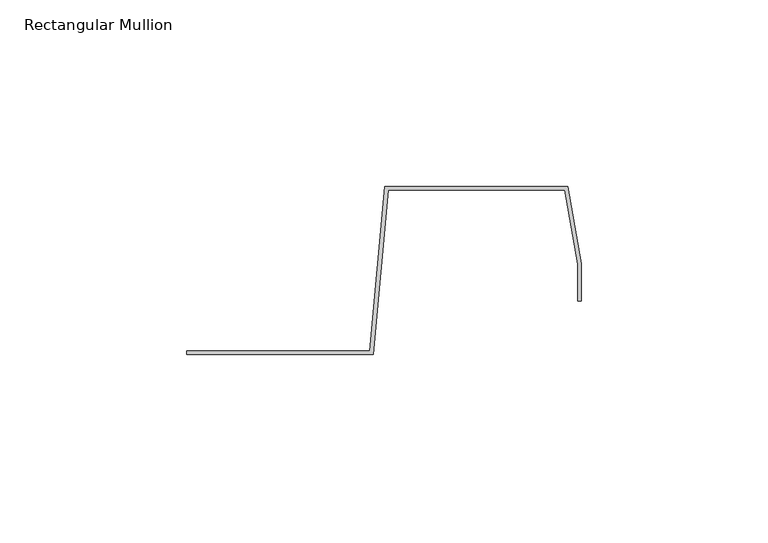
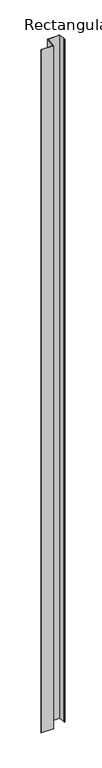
"""IFC4 building model written with IfcOpenShell, lengths in millimetres: member geometry, Rectangular Mullion : CD_NINELINE_Batten End w Pan."""

import ifcopenshell
import ifcopenshell.guid

model = None  # the IFC model being written
_history = None  # IfcOwnerHistory: only IFC2X3 demands one
_inside = {}  # id of a spatial element -> (the spatial element, [elements in it])
_under = {}  # id of a project, library or spatial element -> (it, [spatial elements below it])
_declared = {}  # id of a project -> (the project, [libraries it declares])
_typed = {}  # id of a type object -> (the type object, [elements of that type])
_made_of = {}  # id of a material, layer set ... -> (it, [elements and type objects made of it])


def new_model(schema):
    """Start an empty IFC model of exactly this schema.

    Asked for "IFC4X3", IfcOpenShell would pick the latest addendum, in which some entities
    have other attributes; the version numbers below select the first issue.
    IFC2X3 requires an IfcOwnerHistory on every rooted entity: one is made here for all.
    """
    global model, _history
    if schema == "IFC4X3":
        model = ifcopenshell.file(schema_version=(4, 3, 0, 0))
    else:
        model = ifcopenshell.file(schema=schema)
    _inside.clear()
    _under.clear()
    _declared.clear()
    _typed.clear()
    _made_of.clear()
    _history = None
    if model.schema == "IFC2X3":
        org = make("IfcOrganization", Name="unknown")
        user = make(
            "IfcPersonAndOrganization",
            ThePerson=make("IfcPerson", FamilyName="unknown"),
            TheOrganization=org,
        )
        app = make(
            "IfcApplication",
            ApplicationDeveloper=org,
            Version="unknown",
            ApplicationFullName="unknown",
            ApplicationIdentifier="unknown",
        )
        _history = make(
            "IfcOwnerHistory",
            OwningUser=user,
            OwningApplication=app,
            ChangeAction="ADDED",
            CreationDate=0,
        )
    return model


def make(cls, **values):
    """One entity of the class cls with the attributes given. An attribute that is None is left unset."""
    return model.create_entity(
        cls, **{name: value for name, value in values.items() if value is not None}
    )


def rooted(cls, **values):
    """An entity with a GlobalId (a new one), such as an element, a storey or a relation."""
    return make(cls, GlobalId=ifcopenshell.guid.new(), OwnerHistory=_history, **values)


def si_unit(unit_type, name, prefix=None):
    """IfcSIUnit, for example si_unit("LENGTHUNIT", "METRE", prefix="MILLI")."""
    return make("IfcSIUnit", UnitType=unit_type, Prefix=prefix, Name=name)


def assignment(units):
    """IfcUnitAssignment: the units of a project."""
    return None if units is None else make("IfcUnitAssignment", Units=units)


def point(xyz):
    """IfcCartesianPoint."""
    return None if xyz is None else make("IfcCartesianPoint", Coordinates=xyz)


def direction(xyz):
    """IfcDirection."""
    return None if xyz is None else make("IfcDirection", DirectionRatios=xyz)


def frame(location, z_axis=None, x_axis=None):
    """IfcAxis2Placement3D, a coordinate frame: its origin and axes. An axis left out is left unset."""
    return make(
        "IfcAxis2Placement3D",
        Location=point(location),
        Axis=direction(z_axis),
        RefDirection=direction(x_axis),
    )


def origin():
    """The frame at (0, 0, 0) with its axes left unset."""
    return frame((0.0, 0.0, 0.0))


def place(relative_to, where):
    """IfcLocalPlacement: puts the frame where relative to a parent placement (None: the world)."""
    return make(
        "IfcLocalPlacement", PlacementRelTo=relative_to, RelativePlacement=where
    )


def context(
    kind, dimensions, precision=None, world=None, true_north=None, identifier=None
):
    """IfcGeometricRepresentationContext, for example the 3D "Model" context."""
    return make(
        "IfcGeometricRepresentationContext",
        ContextIdentifier=identifier,
        ContextType=kind,
        CoordinateSpaceDimension=dimensions,
        Precision=precision,
        WorldCoordinateSystem=world,
        TrueNorth=true_north,
    )


def project(units=None, contexts=None):
    """IfcProject with its units and contexts."""
    return rooted(
        "IfcProject",
        Name="project",
        RepresentationContexts=contexts,
        UnitsInContext=assignment(units),
    )


def spatial(cls, under=None, at=None, **own):
    """A site, building, storey or space (cls), placed at a placement, below another one or the project."""
    s = rooted(cls, ObjectPlacement=at, **own)
    if under is not None:
        _under.setdefault(under.id(), (under, []))[1].append(s)
    return s


def polyline(points):
    """IfcPolyline through the points."""
    return make("IfcPolyline", Points=[point(p) for p in points])


def outline(outer, holes=None, kind="AREA"):
    """IfcArbitraryClosedProfileDef: a profile drawn as a closed curve; with holes, ...WithVoids."""
    if holes is None:
        return make("IfcArbitraryClosedProfileDef", ProfileType=kind, OuterCurve=outer)
    return make(
        "IfcArbitraryProfileDefWithVoids",
        ProfileType=kind,
        OuterCurve=outer,
        InnerCurves=holes,
    )


def extrude(swept, where, along, depth):
    """IfcExtrudedAreaSolid: the profile swept, set in the frame where, extruded along a direction by depth."""
    return make(
        "IfcExtrudedAreaSolid",
        SweptArea=swept,
        Position=where,
        ExtrudedDirection=direction(along),
        Depth=depth,
    )


def shape(context_of_items, identifier, shape_type, items):
    """IfcShapeRepresentation: the items that make up one representation, for example the "Body"."""
    return make(
        "IfcShapeRepresentation",
        ContextOfItems=context_of_items,
        RepresentationIdentifier=identifier,
        RepresentationType=shape_type,
        Items=items,
    )


def source(mapping_origin, context_of_items, identifier, shape_type, items):
    """IfcRepresentationMap: a shape defined once, which mapped items show again and again."""
    return make(
        "IfcRepresentationMap",
        MappingOrigin=mapping_origin,
        MappedRepresentation=shape(context_of_items, identifier, shape_type, items),
    )


def transform(
    local_origin,
    x_axis=None,
    y_axis=None,
    z_axis=None,
    scale=None,
    scale2=None,
    scale3=None,
    uniform=True,
):
    """IfcCartesianTransformationOperator3D, or its non-uniform kind. x_axis, y_axis, z_axis: its Axis1, 2, 3."""
    if uniform:
        return make(
            "IfcCartesianTransformationOperator3D",
            Axis1=direction(x_axis),
            Axis2=direction(y_axis),
            LocalOrigin=point(local_origin),
            Scale=scale,
            Axis3=direction(z_axis),
        )
    return make(
        "IfcCartesianTransformationOperator3DnonUniform",
        Axis1=direction(x_axis),
        Axis2=direction(y_axis),
        LocalOrigin=point(local_origin),
        Scale=scale,
        Axis3=direction(z_axis),
        Scale2=scale2,
        Scale3=scale3,
    )


def mapped(mapping_source, mapping_target):
    """IfcMappedItem: shows the shape of a source again, moved by a transform."""
    return make(
        "IfcMappedItem", MappingSource=mapping_source, MappingTarget=mapping_target
    )


def made_of(thing, what):
    """Note that an element or type object is made of a material, layer set ...; save() writes the relation."""
    if what is not None:
        _made_of.setdefault(what.id(), (what, []))[1].append(thing)
    return thing


def element(
    cls,
    number,
    at=None,
    inside=None,
    cuts=None,
    type_object=None,
    material=None,
    context=None,
    identifier="Body",
    shape_type=None,
    held_by="IfcProductDefinitionShape",
    body=None,
    shapes=None,
    **own,
):
    """One element of the class cls, such as IfcWall. Its Tag is "e" and its number.

    at: its placement. inside: the storey or other place that contains it. cuts: it is an
    opening in that element (IfcRelVoidsElement). A single representation is given by context,
    identifier, shape_type and body (its items); several are given by shapes. held_by: the class
    of the entity that holds the representations. save() writes the other relations.
    """
    e = rooted(cls, Tag="e%d" % number, ObjectPlacement=at, **own)
    if body is not None:
        shapes = [shape(context, identifier, shape_type, body)]
    if shapes is not None:
        e.Representation = make(held_by, Representations=shapes)
    if inside is not None:
        _inside.setdefault(inside.id(), (inside, []))[1].append(e)
    if cuts is not None:
        rooted(
            "IfcRelVoidsElement", RelatingBuildingElement=cuts, RelatedOpeningElement=e
        )
    if type_object is not None:
        _typed.setdefault(type_object.id(), (type_object, []))[1].append(e)
    return made_of(e, material)


def aggregate(whole, parts):
    """IfcRelAggregates: a whole, such as a stair, and the parts it consists of."""
    return rooted("IfcRelAggregates", RelatingObject=whole, RelatedObjects=parts)


def save(model, path):
    """Write the relations noted so far, then the file.

    IfcRelAggregates (storeys below a building ...), IfcRelContainedInSpatialStructure (elements
    in a storey), IfcRelDefinesByType, IfcRelAssociatesMaterial and IfcRelDeclares: one each for
    every whole, place, type object, material and project.
    """
    for whole, parts in _under.values():
        aggregate(whole, parts)
    for where, things in _inside.values():
        rooted(
            "IfcRelContainedInSpatialStructure",
            RelatedElements=things,
            RelatingStructure=where,
        )
    for kind, things in _typed.values():
        rooted("IfcRelDefinesByType", RelatedObjects=things, RelatingType=kind)
    for what, things in _made_of.values():
        rooted("IfcRelAssociatesMaterial", RelatedObjects=things, RelatingMaterial=what)
    for by, libraries in _declared.values():
        rooted("IfcRelDeclares", RelatingContext=by, RelatedDefinitions=libraries)
    model.write(path)


def rectangular_mullion_46f464e6(model_context):
    return source(origin(), model_context, "Body", "SweptSolid", [
        extrude(outline(polyline([(-56.6433895, 1.0), (-52.6433895, 45.0), (-3.6433895, 45.0), (0.0, 24.3373112), (0.0, 14.3373112), (-1.0, 14.3373112), (-1.0, 24.2498225), (-4.4824892, 44.0), (-51.7301749, 44.0), (-55.7301749, 0.0), (-105.6433895, 0.0), (-105.6433895, 1.0), (-56.6433895, 1.0)])), frame((0.0, 0.0, -2942.0), z_axis=(0.0, 0.0, 1.0), x_axis=(1.0, 0.0, 0.0)), (0.0, 0.0, 1.0), 2942.0),
    ])


if __name__ == "__main__":
    model = new_model("IFC4")
    model_context = context("Model", 3, world=origin())
    ifc_project = project(units=[si_unit("LENGTHUNIT", "METRE", prefix="MILLI")], contexts=[model_context])
    site = spatial("IfcSite", under=ifc_project)
    building = spatial("IfcBuilding", under=site)
    placement = place(None, origin())
    rectangular_mullion_shape = rectangular_mullion_46f464e6(model_context)
    element("IfcMember", 1, ObjectType="Rectangular Mullion : CD_NINELINE_Batten End w Pan", at=placement, inside=building, context=model_context, shape_type="MappedRepresentation", body=[
        mapped(rectangular_mullion_shape, transform((0.0, 0.0, 0.0), x_axis=(1.0, 0.0, 0.0), y_axis=(0.0, 1.0, 0.0), z_axis=(0.0, 0.0, 1.0))),
    ])
    save(model, "model.ifc")
